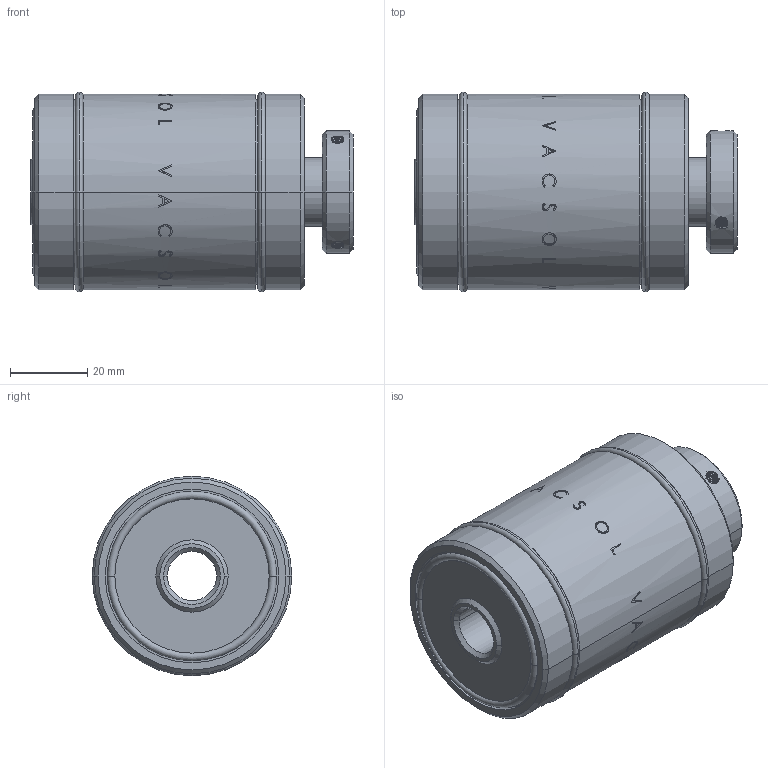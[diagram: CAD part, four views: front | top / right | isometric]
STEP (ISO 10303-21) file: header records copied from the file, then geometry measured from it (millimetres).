
FILE_DESCRIPTION (( 'STEP AP203' ), '1' );
FILE_NAME ('P65010.STEP', '2010-10-11T10:58:08', ( 'user' ), ( '' ), 'SwSTEP 2.0', 'SolidWorks 2007', '' );
FILE_SCHEMA (( 'CONFIG_CONTROL_DESIGN' ));
Length unit declared in the file: millimetre
Products named in the file (1): P65010
Bounding box: 83.55 x 51.75 x 51.75 mm (x, y, z)
Volume: 137256.2 mm3; surface area: 26725.1 mm2
Topology: 4 solids, 4 shells, 407 faces, 1086 edges, 716 vertices
Faces by surface type: bspline 186, cylinder 171, plane 24, cone 14, torus 12
Entity records: 30592 total; most frequent: CARTESIAN_POINT 22652, ORIENTED_EDGE 2172, EDGE_CURVE 1086, DIRECTION 820, VERTEX_POINT 716, B_SPLINE_CURVE_WITH_KNOTS 584, EDGE_LOOP 450, FACE_OUTER_BOUND 407
